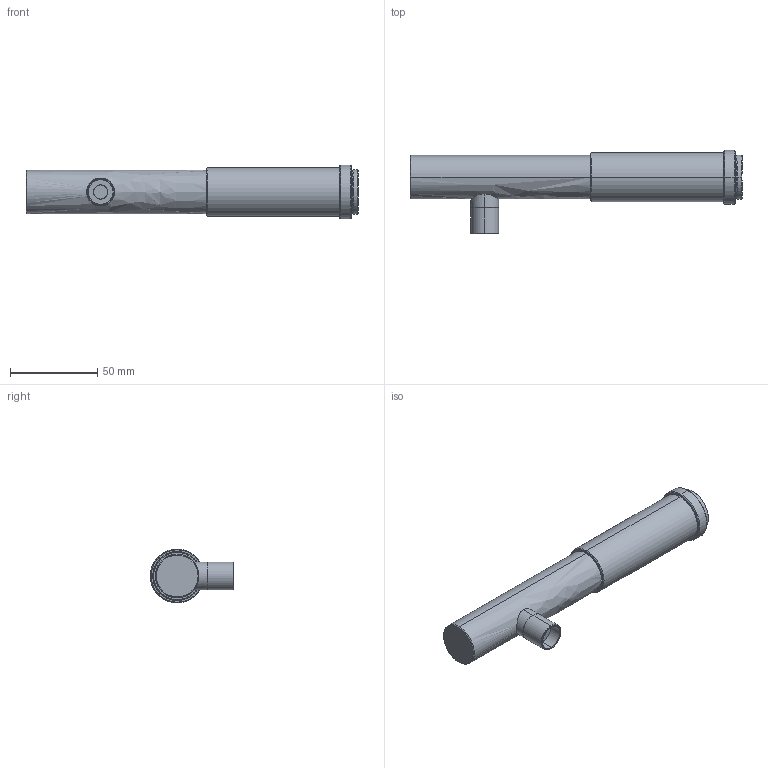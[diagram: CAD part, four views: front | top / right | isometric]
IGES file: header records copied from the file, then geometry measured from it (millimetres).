
Start section: SolidWorks IGES file using analytic representation for surfaces
Global section: file name: C:\Users\sugita_vst\Desktop\AutoCAD恾柺DATA\丒VS-TCM7-50CO (3D儌僨儖) 仯\VS-TCM7-50CO.IGS; native system: SolidWorks 2018; preprocessor: SolidWorks 2018; author: sugita_vst; date: 190204.090447; units: millimetre
Bounding box: 190.61 x 48 x 31 mm (x, y, z)
Surface area: 18827.3 mm2 (no closed solid volume)
Topology: 0 solids, 0 shells, 44 faces, 742 edges, 742 vertices
Faces by surface type: revolution 36, bspline 8
